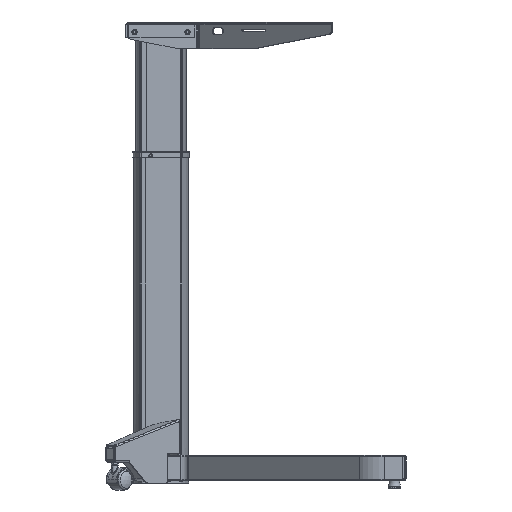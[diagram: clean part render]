
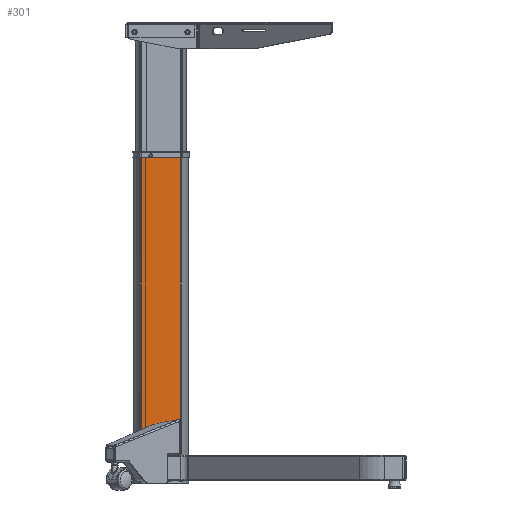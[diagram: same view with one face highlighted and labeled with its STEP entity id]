
A CAD part, left-side view. The second image highlights one B-rep face of the part: STEP entity #301.
In plain terms, the highlighted planar face has unit normal (-1, 0, 0).
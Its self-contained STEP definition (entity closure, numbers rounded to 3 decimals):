
#301 = ADVANCED_FACE ( 'NONE', ( #36640, #42354 ), #13734, .F. ) ;
#676 = VECTOR ( 'NONE', #37259, 1000. ) ;
#814 = VERTEX_POINT ( 'NONE', #41599 ) ;
#1540 = CARTESIAN_POINT ( 'NONE',  ( -70., -39., 0. ) ) ;
#1554 = LINE ( 'NONE', #1540, #56151 ) ;
#3788 = EDGE_CURVE ( 'NONE', #814, #10506, #8450, .T. ) ;
#4384 = LINE ( 'NONE', #30174, #8441 ) ;
#5003 = DIRECTION ( 'NONE',  ( 0., 0., -1. ) ) ;
#5804 = EDGE_LOOP ( 'NONE', ( #37574 ) ) ;
#6058 = AXIS2_PLACEMENT_3D ( 'NONE', #60529, #29367, #65760 ) ;
#6078 = ORIENTED_EDGE ( 'NONE', *, *, #37409, .F. ) ;
#6209 = EDGE_CURVE ( 'NONE', #52281, #59506, #1554, .T. ) ;
#6341 = EDGE_CURVE ( 'NONE', #23345, #48405, #63409, .T. ) ;
#6959 = VECTOR ( 'NONE', #41307, 1000. ) ;
#6973 = DIRECTION ( 'NONE',  ( 0., 0., -1. ) ) ;
#8128 = ORIENTED_EDGE ( 'NONE', *, *, #65446, .T. ) ;
#8441 = VECTOR ( 'NONE', #5003, 1000. ) ;
#8450 = LINE ( 'NONE', #31683, #17372 ) ;
#8596 = LINE ( 'NONE', #52218, #6959 ) ;
#8699 = EDGE_CURVE ( 'NONE', #36073, #23345, #17004, .T. ) ;
#10387 = VECTOR ( 'NONE', #31638, 1000. ) ;
#10506 = VERTEX_POINT ( 'NONE', #44630 ) ;
#10672 = EDGE_CURVE ( 'NONE', #10506, #27810, #42706, .T. ) ;
#10943 = CARTESIAN_POINT ( 'NONE',  ( -70., 27.6, 644. ) ) ;
#11229 = ORIENTED_EDGE ( 'NONE', *, *, #6341, .T. ) ;
#11388 = VECTOR ( 'NONE', #17896, 1000. ) ;
#11873 = VECTOR ( 'NONE', #20996, 1000. ) ;
#12769 = CARTESIAN_POINT ( 'NONE',  ( -70., -39., 4.1 ) ) ;
#13514 = EDGE_CURVE ( 'NONE', #59942, #48405, #24624, .T. ) ;
#13641 = CARTESIAN_POINT ( 'NONE',  ( -70., -38.327, 644. ) ) ;
#13734 = PLANE ( 'NONE',  #6058 ) ;
#15669 = LINE ( 'NONE', #12769, #61998 ) ;
#17004 = LINE ( 'NONE', #52027, #676 ) ;
#17372 = VECTOR ( 'NONE', #6973, 1000. ) ;
#17659 = DIRECTION ( 'NONE',  ( 0., 0., -1. ) ) ;
#17896 = DIRECTION ( 'NONE',  ( 0., -1., 0. ) ) ;
#18134 = CARTESIAN_POINT ( 'NONE',  ( -70., 39., 644. ) ) ;
#18290 = DIRECTION ( 'NONE',  ( 0., 0., -1. ) ) ;
#20996 = DIRECTION ( 'NONE',  ( 0., -1., 0. ) ) ;
#21220 = EDGE_CURVE ( 'NONE', #50834, #59506, #35997, .T. ) ;
#22802 = EDGE_CURVE ( 'NONE', #49571, #27810, #4384, .T. ) ;
#23345 = VERTEX_POINT ( 'NONE', #31984 ) ;
#23358 = LINE ( 'NONE', #62835, #10387 ) ;
#23485 = CARTESIAN_POINT ( 'NONE',  ( -70., -38.327, 644. ) ) ;
#24624 = LINE ( 'NONE', #23485, #50650 ) ;
#25698 = EDGE_LOOP ( 'NONE', ( #66786, #8128, #46327, #58273, #64865, #29586, #51356, #11229, #48398, #6078, #30326, #50073 ) ) ;
#26089 = CARTESIAN_POINT ( 'NONE',  ( -70., -27.6, 4.1 ) ) ;
#27810 = VERTEX_POINT ( 'NONE', #58109 ) ;
#27927 = EDGE_CURVE ( 'NONE', #67230, #67230, #45216, .T. ) ;
#28670 = CARTESIAN_POINT ( 'NONE',  ( -70., 27.6, 0. ) ) ;
#29367 = DIRECTION ( 'NONE',  ( 1., 0., 0. ) ) ;
#29586 = ORIENTED_EDGE ( 'NONE', *, *, #54418, .F. ) ;
#30174 = CARTESIAN_POINT ( 'NONE',  ( -70., -12.4, 4.1 ) ) ;
#30326 = ORIENTED_EDGE ( 'NONE', *, *, #43545, .T. ) ;
#31638 = DIRECTION ( 'NONE',  ( 0., 1., 0. ) ) ;
#31683 = CARTESIAN_POINT ( 'NONE',  ( -70., 12.4, 644. ) ) ;
#31984 = CARTESIAN_POINT ( 'NONE',  ( -70., -27.6, 0. ) ) ;
#32841 = CARTESIAN_POINT ( 'NONE',  ( -70., 20.312, 638. ) ) ;
#32884 = DIRECTION ( 'NONE',  ( 0., -1., 0. ) ) ;
#35997 = LINE ( 'NONE', #10943, #40703 ) ;
#36073 = VERTEX_POINT ( 'NONE', #26089 ) ;
#36457 = CARTESIAN_POINT ( 'NONE',  ( -70., -39., 0. ) ) ;
#36640 = FACE_BOUND ( 'NONE', #5804, .T. ) ;
#37259 = DIRECTION ( 'NONE',  ( 0., 0., -1. ) ) ;
#37409 = EDGE_CURVE ( 'NONE', #57475, #59942, #8596, .T. ) ;
#37574 = ORIENTED_EDGE ( 'NONE', *, *, #27927, .T. ) ;
#38597 = DIRECTION ( 'NONE',  ( 0., 0., -1. ) ) ;
#39581 = CARTESIAN_POINT ( 'NONE',  ( -70., -38.327, 0. ) ) ;
#40703 = VECTOR ( 'NONE', #63404, 1000. ) ;
#41307 = DIRECTION ( 'NONE',  ( 0., -1., 0. ) ) ;
#41599 = CARTESIAN_POINT ( 'NONE',  ( -70., 12.4, 4.1 ) ) ;
#42354 = FACE_OUTER_BOUND ( 'NONE', #25698, .T. ) ;
#42706 = LINE ( 'NONE', #36457, #11873 ) ;
#43545 = EDGE_CURVE ( 'NONE', #57475, #52281, #59199, .T. ) ;
#44630 = CARTESIAN_POINT ( 'NONE',  ( -70., 12.4, 0. ) ) ;
#45216 = CIRCLE ( 'NONE', #62788, 3.75 ) ;
#45370 = VECTOR ( 'NONE', #38597, 1000. ) ;
#46327 = ORIENTED_EDGE ( 'NONE', *, *, #3788, .T. ) ;
#48398 = ORIENTED_EDGE ( 'NONE', *, *, #13514, .F. ) ;
#48405 = VERTEX_POINT ( 'NONE', #39581 ) ;
#49088 = DIRECTION ( 'NONE',  ( 0., -1., 0. ) ) ;
#49571 = VERTEX_POINT ( 'NONE', #62769 ) ;
#50073 = ORIENTED_EDGE ( 'NONE', *, *, #6209, .T. ) ;
#50650 = VECTOR ( 'NONE', #18290, 1000. ) ;
#50834 = VERTEX_POINT ( 'NONE', #58966 ) ;
#51356 = ORIENTED_EDGE ( 'NONE', *, *, #8699, .T. ) ;
#52027 = CARTESIAN_POINT ( 'NONE',  ( -70., -27.6, 4.1 ) ) ;
#52218 = CARTESIAN_POINT ( 'NONE',  ( -70., -39., 644. ) ) ;
#52281 = VERTEX_POINT ( 'NONE', #60382 ) ;
#52506 = CARTESIAN_POINT ( 'NONE',  ( -70., 20.312, 634.25 ) ) ;
#54025 = CARTESIAN_POINT ( 'NONE',  ( -70., -39., 0. ) ) ;
#54206 = DIRECTION ( 'NONE',  ( 1., 0., 0. ) ) ;
#54418 = EDGE_CURVE ( 'NONE', #36073, #49571, #23358, .T. ) ;
#56151 = VECTOR ( 'NONE', #32884, 1000. ) ;
#57475 = VERTEX_POINT ( 'NONE', #18134 ) ;
#58109 = CARTESIAN_POINT ( 'NONE',  ( -70., -12.4, 0. ) ) ;
#58273 = ORIENTED_EDGE ( 'NONE', *, *, #10672, .T. ) ;
#58966 = CARTESIAN_POINT ( 'NONE',  ( -70., 27.6, 4.1 ) ) ;
#59199 = LINE ( 'NONE', #59266, #45370 ) ;
#59266 = CARTESIAN_POINT ( 'NONE',  ( -70., 39., 644. ) ) ;
#59506 = VERTEX_POINT ( 'NONE', #28670 ) ;
#59942 = VERTEX_POINT ( 'NONE', #13641 ) ;
#60382 = CARTESIAN_POINT ( 'NONE',  ( -70., 39., 0. ) ) ;
#60529 = CARTESIAN_POINT ( 'NONE',  ( -70., -39., 644. ) ) ;
#61998 = VECTOR ( 'NONE', #49088, 1000. ) ;
#62769 = CARTESIAN_POINT ( 'NONE',  ( -70., -12.4, 4.1 ) ) ;
#62788 = AXIS2_PLACEMENT_3D ( 'NONE', #32841, #54206, #17659 ) ;
#62835 = CARTESIAN_POINT ( 'NONE',  ( -70., -12.4, 4.1 ) ) ;
#63404 = DIRECTION ( 'NONE',  ( 0., 0., -1. ) ) ;
#63409 = LINE ( 'NONE', #54025, #11388 ) ;
#64865 = ORIENTED_EDGE ( 'NONE', *, *, #22802, .F. ) ;
#65446 = EDGE_CURVE ( 'NONE', #50834, #814, #15669, .T. ) ;
#65760 = DIRECTION ( 'NONE',  ( 0., 0., -1. ) ) ;
#66786 = ORIENTED_EDGE ( 'NONE', *, *, #21220, .F. ) ;
#67230 = VERTEX_POINT ( 'NONE', #52506 ) ;
